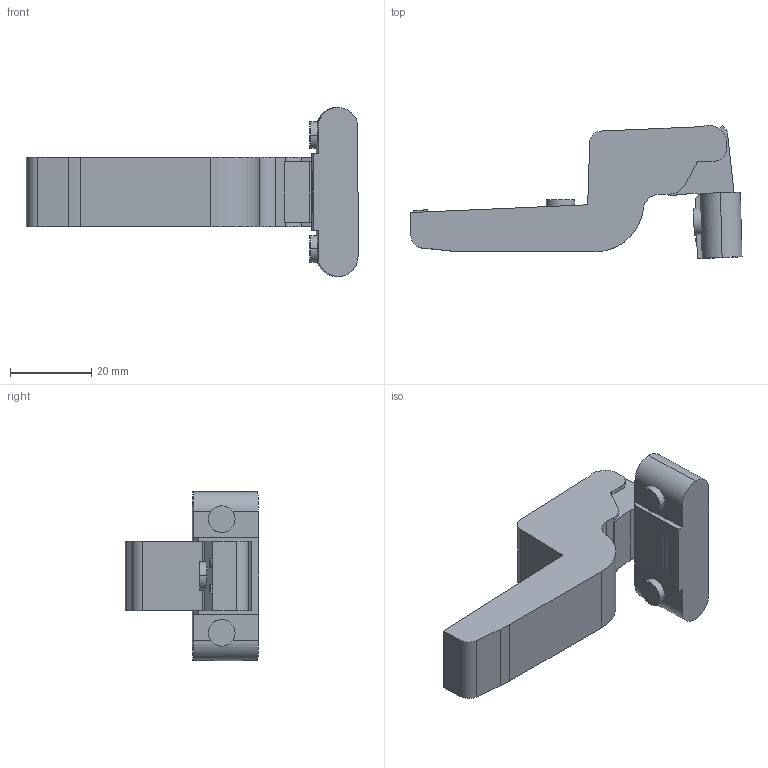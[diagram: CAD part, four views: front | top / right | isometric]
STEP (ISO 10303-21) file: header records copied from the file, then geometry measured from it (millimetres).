
FILE_DESCRIPTION (( 'STEP AP203' ), '1' );
FILE_NAME ('C82C278F-DTC 3D close.STEP', '2024-09-09T05:35:38', ( '微软用户' ), ( '微软中国' ), 'SwSTEP 2.0', 'SolidWorks 2021', '' );
FILE_SCHEMA (( 'CONFIG_CONTROL_DESIGN' ));
Length unit declared in the file: millimetre
Products named in the file (1): C82C278F-DTC 3D close
Bounding box: 81.66 x 32.78 x 41.6 mm (x, y, z)
Volume: 26523.1 mm3; surface area: 8058.5 mm2
Topology: 1 solids, 1 shells, 84 faces, 232 edges, 154 vertices
Faces by surface type: plane 46, cylinder 36, bspline 1, torus 1
Entity records: 2990 total; most frequent: CARTESIAN_POINT 721, ORIENTED_EDGE 464, DIRECTION 463, EDGE_CURVE 232, AXIS2_PLACEMENT_3D 158, VERTEX_POINT 154, VECTOR 147, LINE 147
